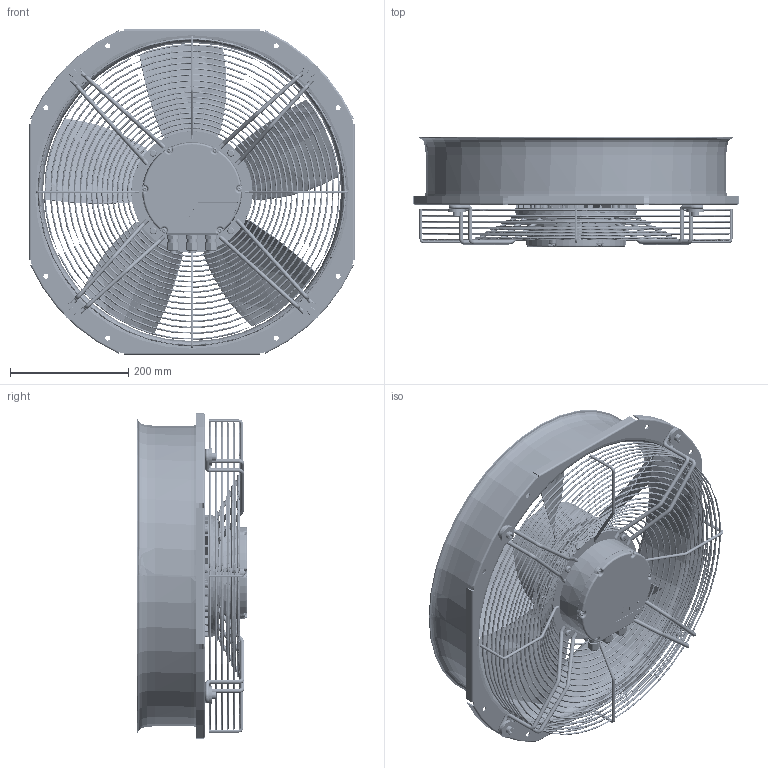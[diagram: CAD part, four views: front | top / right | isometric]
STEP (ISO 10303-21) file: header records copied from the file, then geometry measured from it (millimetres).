
FILE_DESCRIPTION((''),'2;1');
FILE_NAME('GTW050EUD19E_ASM','2022-01-27T',('YICHING.CHIOU'),(''),'CREO PARAMETRIC BY PTC INC, 2015080','CREO PARAMETRIC BY PTC INC, 2015080','');
FILE_SCHEMA(('AUTOMOTIVE_DESIGN { 1 0 10303 214 1 1 1 1 }'));
Length unit declared in the file: millimetre
Products named in the file (41): _OD84_PILLOW__1KW__-_____158__5; ____-____44_AF0_30; NEW_OD112_PILLOW__1_5KW__1_AF0__ASM; CLAMP-1-MOS_14; CLAMP-2-MOS_11; CLAMP-1-IGBT_13; NEW_OD112_PILLOW_1_5KW__ASM_49_ASM; 6003ZZ_1_2_3_1; 6003ZZ_1_2_3_2; 6003ZZ_1_2_3_3; 6003ZZ_1_2_3_4; 6003ZZ_1_2_3_5; 6003ZZ_1_2_3_6; 6003ZZ_1_2_3_7; 6003ZZ_1_2_3_8; 6003ZZ_1_2_3_9; 6003ZZ_1_2_3_10; 6003ZZ_1_2_3_11; 6003ZZ_1_2_3_ASM; OD112_ROTOR-CASTING_-0721_14; ____1_1_2_3_2_1_22_2; ____2_2__1_2_3_1_1_16_4; ____2_1__1_2_3_1_1_16_2; C_RING_1_2_3_1_1_16_2; SHAFT_ASSY_AFTER_1_2_ASM_1_AS_1_ASM; OD112-H45-WIND-BLADE_5; 3105567800_M4X10_1_1_5; STEEL-TUBE_6; BOLTM6L12_10; IMPELLER-COVER-PPE-PA-30GF_3; IMP-GTW040-497-A_11; NEW_OD112_ROTOR_ASSY_H45_ASM_46_ASM; OD112_BOTTOM_COVER_11122021_4; 3105864700__M4X20_4_1_2; NYLON_GLAND_7; FANGUARD-AXIAL-FINAL_14; WALLRING-GTW040-VERTIV_32; BOLTM8L20-1_9; M8NUT_5; OD112-5NM-G2-MOTOR-ASSY-1-5KW_A_ASM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
Assembly tree (66 placements, depth 5):
  GTW050EUD19E_ASM
    OD112-5NM-G2-MOTOR-ASSY-1-5KW_A_ASM
      NEW_OD112_PILLOW_1_5KW__ASM_49_ASM
        NEW_OD112_PILLOW__1_5KW__1_AF0__ASM
          _OD84_PILLOW__1KW__-_____158__5
          ____-____44_AF0_30
        CLAMP-1-MOS_14
        CLAMP-2-MOS_11
        CLAMP-1-IGBT_13
      6003ZZ_1_2_3_ASM  x2
        6003ZZ_1_2_3_1
        6003ZZ_1_2_3_2
        6003ZZ_1_2_3_3
        6003ZZ_1_2_3_4
        6003ZZ_1_2_3_5
        6003ZZ_1_2_3_6
        6003ZZ_1_2_3_7
        6003ZZ_1_2_3_8
        6003ZZ_1_2_3_9
        6003ZZ_1_2_3_10
        6003ZZ_1_2_3_11
      NEW_OD112_ROTOR_ASSY_H45_ASM_46_ASM
        OD112_ROTOR-CASTING_-0721_14
        SHAFT_ASSY_AFTER_1_2_ASM_1_AS_1_ASM
          ____1_1_2_3_2_1_22_2
          ____2_2__1_2_3_1_1_16_4
          ____2_1__1_2_3_1_1_16_2
          C_RING_1_2_3_1_1_16_2
        OD112-H45-WIND-BLADE_5
        3105567800_M4X10_1_1_5
        STEEL-TUBE_6  x5
        BOLTM6L12_10  x5
        IMPELLER-COVER-PPE-PA-30GF_3
        IMP-GTW040-497-A_11
      OD112_BOTTOM_COVER_11122021_4
      3105864700__M4X20_4_1_2  x6
      NYLON_GLAND_7  x3
      FANGUARD-AXIAL-FINAL_14
      WALLRING-GTW040-VERTIV_32
      BOLTM8L20-1_9  x4
      M8NUT_5  x4
      BOLTM6L12_10  x4
Bounding box: 550 x 185.77 x 550.01 mm (x, y, z)
Volume: 3470556.5 mm3; surface area: 1777024.1 mm2
Topology: 70 solids, 73 shells, 6755 faces, 19593 edges, 12239 vertices
Faces by surface type: cylinder 2074, torus 1457, plane 1265, bspline 776, cone 674, sphere 336, extrusion 165, revolution 8
Entity records: 310798 total; most frequent: CARTESIAN_POINT 124185, ORIENTED_EDGE 33178, DIRECTION 30664, EDGE_CURVE 16589, AXIS2_PLACEMENT_3D 13007, VERTEX_POINT 10458, PRESENTATION_STYLE_ASSIGNMENT 9609, STYLED_ITEM 9527
